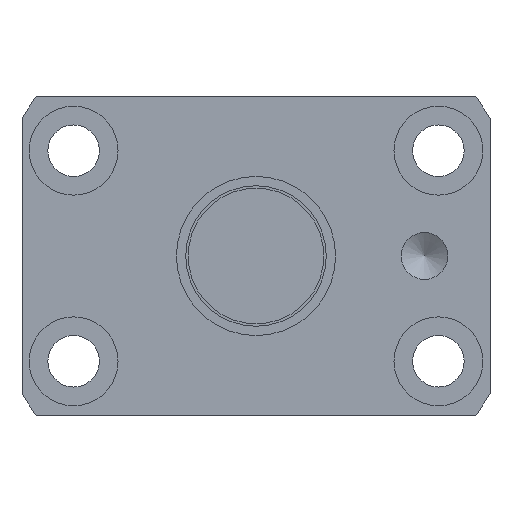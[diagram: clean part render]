
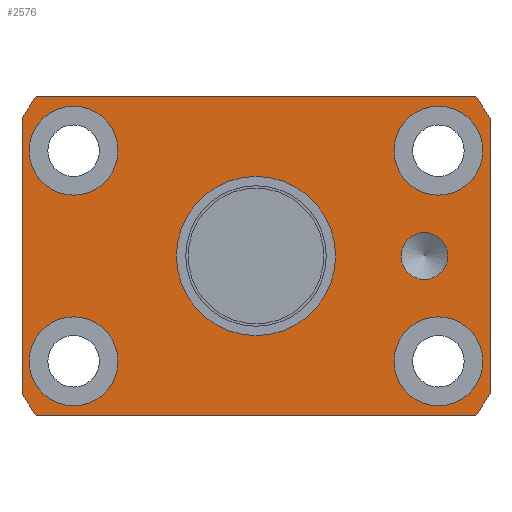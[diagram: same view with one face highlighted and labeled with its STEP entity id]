
A CAD part, left-side view. The second image highlights one B-rep face of the part: STEP entity #2576.
In plain terms, the highlighted planar face has unit normal (-1, 0, 0).
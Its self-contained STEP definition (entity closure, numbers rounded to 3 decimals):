
#53 = EDGE_CURVE ( 'NONE', #3073, #2278, #2733, .T. ) ;
#81 = ORIENTED_EDGE ( 'NONE', *, *, #1550, .T. ) ;
#88 = CIRCLE ( 'NONE', #2144, 29. ) ;
#97 = VECTOR ( 'NONE', #3296, 1000. ) ;
#103 = AXIS2_PLACEMENT_3D ( 'NONE', #683, #1793, #2820 ) ;
#140 = CARTESIAN_POINT ( 'NONE',  ( 0., 0., 0. ) ) ;
#155 = CIRCLE ( 'NONE', #1786, 4.75 ) ;
#184 = EDGE_CURVE ( 'NONE', #679, #1046, #2044, .T. ) ;
#186 = ORIENTED_EDGE ( 'NONE', *, *, #53, .F. ) ;
#212 = VECTOR ( 'NONE', #2349, 1000. ) ;
#217 = VERTEX_POINT ( 'NONE', #2267 ) ;
#252 = EDGE_CURVE ( 'NONE', #2813, #1229, #2455, .T. ) ;
#349 = EDGE_CURVE ( 'NONE', #1229, #674, #88, .T. ) ;
#451 = ORIENTED_EDGE ( 'NONE', *, *, #2129, .T. ) ;
#466 = CARTESIAN_POINT ( 'NONE',  ( 0., -23.495, -17. ) ) ;
#508 = PLANE ( 'NONE',  #1628 ) ;
#583 = VECTOR ( 'NONE', #3209, 1000. ) ;
#632 = CIRCLE ( 'NONE', #1778, 8.5 ) ;
#638 = AXIS2_PLACEMENT_3D ( 'NONE', #1267, #732, #1518 ) ;
#645 = EDGE_CURVE ( 'NONE', #1539, #1539, #632, .T. ) ;
#656 = CARTESIAN_POINT ( 'NONE',  ( 0., -25., -17. ) ) ;
#657 = CARTESIAN_POINT ( 'NONE',  ( 0., 25., -17. ) ) ;
#668 = DIRECTION ( 'NONE',  ( 0., 1., 0. ) ) ;
#674 = VERTEX_POINT ( 'NONE', #1035 ) ;
#679 = VERTEX_POINT ( 'NONE', #1066 ) ;
#683 = CARTESIAN_POINT ( 'NONE',  ( 0., 0., 0. ) ) ;
#692 = EDGE_CURVE ( 'NONE', #674, #679, #2085, .T. ) ;
#719 = FACE_BOUND ( 'NONE', #2199, .T. ) ;
#722 = ORIENTED_EDGE ( 'NONE', *, *, #1375, .T. ) ;
#732 = DIRECTION ( 'NONE',  ( 1., 0., 0. ) ) ;
#735 = FACE_BOUND ( 'NONE', #1938, .T. ) ;
#742 = DIRECTION ( 'NONE',  ( 1., 0., 0. ) ) ;
#744 = CARTESIAN_POINT ( 'NONE',  ( 0., -18., 0. ) ) ;
#753 = FACE_BOUND ( 'NONE', #2253, .T. ) ;
#754 = CIRCLE ( 'NONE', #1780, 2.5 ) ;
#755 = ORIENTED_EDGE ( 'NONE', *, *, #2162, .F. ) ;
#812 = DIRECTION ( 'NONE',  ( 1., 0., 0. ) ) ;
#823 = DIRECTION ( 'NONE',  ( 0., -1., 0. ) ) ;
#838 = CARTESIAN_POINT ( 'NONE',  ( 0., -19.486, 11.25 ) ) ;
#874 = CARTESIAN_POINT ( 'NONE',  ( 0., 25., -14.697 ) ) ;
#998 = FACE_BOUND ( 'NONE', #3045, .T. ) ;
#1035 = CARTESIAN_POINT ( 'NONE',  ( 0., 23.495, 17. ) ) ;
#1046 = VERTEX_POINT ( 'NONE', #1712 ) ;
#1066 = CARTESIAN_POINT ( 'NONE',  ( 0., -23.495, 17. ) ) ;
#1072 = ORIENTED_EDGE ( 'NONE', *, *, #1404, .T. ) ;
#1075 = AXIS2_PLACEMENT_3D ( 'NONE', #1261, #742, #1775 ) ;
#1083 = DIRECTION ( 'NONE',  ( 0., 1., 0. ) ) ;
#1118 = EDGE_CURVE ( 'NONE', #217, #217, #754, .T. ) ;
#1162 = VERTEX_POINT ( 'NONE', #2209 ) ;
#1188 = DIRECTION ( 'NONE',  ( 0., 1., 0. ) ) ;
#1194 = CIRCLE ( 'NONE', #2152, 4.75 ) ;
#1213 = ORIENTED_EDGE ( 'NONE', *, *, #252, .F. ) ;
#1226 = CARTESIAN_POINT ( 'NONE',  ( 0., 23.495, -17. ) ) ;
#1229 = VERTEX_POINT ( 'NONE', #3315 ) ;
#1261 = CARTESIAN_POINT ( 'NONE',  ( 0., 0., 0. ) ) ;
#1267 = CARTESIAN_POINT ( 'NONE',  ( 0., -19.486, -11.25 ) ) ;
#1339 = CARTESIAN_POINT ( 'NONE',  ( 0., 25., 17. ) ) ;
#1375 = EDGE_CURVE ( 'NONE', #1944, #1944, #3017, .T. ) ;
#1390 = CARTESIAN_POINT ( 'NONE',  ( 0., 19.486, 11.25 ) ) ;
#1395 = VERTEX_POINT ( 'NONE', #1447 ) ;
#1404 = EDGE_CURVE ( 'NONE', #1395, #1395, #1194, .T. ) ;
#1447 = CARTESIAN_POINT ( 'NONE',  ( 0., 24.236, 11.25 ) ) ;
#1504 = DIRECTION ( 'NONE',  ( 0., 0., 1. ) ) ;
#1507 = DIRECTION ( 'NONE',  ( 1., 0., 0. ) ) ;
#1518 = DIRECTION ( 'NONE',  ( 0., 1., 0. ) ) ;
#1519 = CARTESIAN_POINT ( 'NONE',  ( 0., 8.5, 0. ) ) ;
#1534 = DIRECTION ( 'NONE',  ( -1., 0., 0. ) ) ;
#1539 = VERTEX_POINT ( 'NONE', #1519 ) ;
#1550 = EDGE_CURVE ( 'NONE', #2176, #2176, #1995, .T. ) ;
#1583 = CARTESIAN_POINT ( 'NONE',  ( 0., 0., 0. ) ) ;
#1611 = DIRECTION ( 'NONE',  ( 0., 1., 0. ) ) ;
#1616 = ORIENTED_EDGE ( 'NONE', *, *, #645, .T. ) ;
#1628 = AXIS2_PLACEMENT_3D ( 'NONE', #2970, #2500, #1504 ) ;
#1637 = DIRECTION ( 'NONE',  ( 1., 0., 0. ) ) ;
#1664 = ORIENTED_EDGE ( 'NONE', *, *, #692, .F. ) ;
#1675 = DIRECTION ( 'NONE',  ( 1., 0., 0. ) ) ;
#1712 = CARTESIAN_POINT ( 'NONE',  ( 0., -25., 14.697 ) ) ;
#1721 = VECTOR ( 'NONE', #823, 1000. ) ;
#1775 = DIRECTION ( 'NONE',  ( 0., 1., 0. ) ) ;
#1778 = AXIS2_PLACEMENT_3D ( 'NONE', #2781, #1507, #2522 ) ;
#1780 = AXIS2_PLACEMENT_3D ( 'NONE', #744, #1534, #2550 ) ;
#1786 = AXIS2_PLACEMENT_3D ( 'NONE', #2206, #1962, #668 ) ;
#1793 = DIRECTION ( 'NONE',  ( 1., 0., 0. ) ) ;
#1803 = FACE_OUTER_BOUND ( 'NONE', #3137, .T. ) ;
#1909 = CARTESIAN_POINT ( 'NONE',  ( 0., -14.736, -11.25 ) ) ;
#1938 = EDGE_LOOP ( 'NONE', ( #2330 ) ) ;
#1944 = VERTEX_POINT ( 'NONE', #1909 ) ;
#1946 = ORIENTED_EDGE ( 'NONE', *, *, #3005, .F. ) ;
#1962 = DIRECTION ( 'NONE',  ( 1., 0., 0. ) ) ;
#1995 = CIRCLE ( 'NONE', #2635, 4.75 ) ;
#2022 = FACE_BOUND ( 'NONE', #2667, .T. ) ;
#2044 = CIRCLE ( 'NONE', #2523, 29. ) ;
#2085 = LINE ( 'NONE', #1339, #1721 ) ;
#2122 = DIRECTION ( 'NONE',  ( 1., 0., 0. ) ) ;
#2129 = EDGE_CURVE ( 'NONE', #1162, #1162, #155, .T. ) ;
#2144 = AXIS2_PLACEMENT_3D ( 'NONE', #140, #1675, #1188 ) ;
#2152 = AXIS2_PLACEMENT_3D ( 'NONE', #1390, #1637, #3186 ) ;
#2162 = EDGE_CURVE ( 'NONE', #2278, #3245, #2972, .T. ) ;
#2176 = VERTEX_POINT ( 'NONE', #2675 ) ;
#2199 = EDGE_LOOP ( 'NONE', ( #722 ) ) ;
#2206 = CARTESIAN_POINT ( 'NONE',  ( 0., 19.486, -11.25 ) ) ;
#2209 = CARTESIAN_POINT ( 'NONE',  ( 0., 24.236, -11.25 ) ) ;
#2253 = EDGE_LOOP ( 'NONE', ( #451 ) ) ;
#2267 = CARTESIAN_POINT ( 'NONE',  ( 0., -18., 2.5 ) ) ;
#2278 = VERTEX_POINT ( 'NONE', #466 ) ;
#2330 = ORIENTED_EDGE ( 'NONE', *, *, #1118, .F. ) ;
#2334 = LINE ( 'NONE', #2896, #212 ) ;
#2349 = DIRECTION ( 'NONE',  ( 0., 0., -1. ) ) ;
#2432 = ORIENTED_EDGE ( 'NONE', *, *, #349, .F. ) ;
#2455 = LINE ( 'NONE', #657, #583 ) ;
#2464 = EDGE_LOOP ( 'NONE', ( #1616 ) ) ;
#2500 = DIRECTION ( 'NONE',  ( -1., 0., 0. ) ) ;
#2522 = DIRECTION ( 'NONE',  ( 0., 1., 0. ) ) ;
#2523 = AXIS2_PLACEMENT_3D ( 'NONE', #1583, #812, #1611 ) ;
#2550 = DIRECTION ( 'NONE',  ( 0., 0., 1. ) ) ;
#2560 = CARTESIAN_POINT ( 'NONE',  ( 0., -25., -14.697 ) ) ;
#2576 = ADVANCED_FACE ( 'NONE', ( #735, #753, #998, #2022, #719, #1803, #2830 ), #508, .T. ) ;
#2606 = ORIENTED_EDGE ( 'NONE', *, *, #3170, .F. ) ;
#2635 = AXIS2_PLACEMENT_3D ( 'NONE', #838, #2122, #1083 ) ;
#2667 = EDGE_LOOP ( 'NONE', ( #1072 ) ) ;
#2675 = CARTESIAN_POINT ( 'NONE',  ( 0., -14.736, 11.25 ) ) ;
#2733 = CIRCLE ( 'NONE', #1075, 29. ) ;
#2755 = CIRCLE ( 'NONE', #103, 29. ) ;
#2781 = CARTESIAN_POINT ( 'NONE',  ( 0., 0., 0. ) ) ;
#2813 = VERTEX_POINT ( 'NONE', #874 ) ;
#2820 = DIRECTION ( 'NONE',  ( 0., 1., 0. ) ) ;
#2830 = FACE_BOUND ( 'NONE', #2464, .T. ) ;
#2896 = CARTESIAN_POINT ( 'NONE',  ( 0., -25., 17. ) ) ;
#2970 = CARTESIAN_POINT ( 'NONE',  ( 0., 12.75, 0. ) ) ;
#2972 = LINE ( 'NONE', #656, #97 ) ;
#3005 = EDGE_CURVE ( 'NONE', #3245, #2813, #2755, .T. ) ;
#3017 = CIRCLE ( 'NONE', #638, 4.75 ) ;
#3045 = EDGE_LOOP ( 'NONE', ( #81 ) ) ;
#3073 = VERTEX_POINT ( 'NONE', #2560 ) ;
#3137 = EDGE_LOOP ( 'NONE', ( #755, #186, #2606, #3192, #1664, #2432, #1213, #1946 ) ) ;
#3170 = EDGE_CURVE ( 'NONE', #1046, #3073, #2334, .T. ) ;
#3186 = DIRECTION ( 'NONE',  ( 0., 1., 0. ) ) ;
#3192 = ORIENTED_EDGE ( 'NONE', *, *, #184, .F. ) ;
#3209 = DIRECTION ( 'NONE',  ( 0., 0., 1. ) ) ;
#3245 = VERTEX_POINT ( 'NONE', #1226 ) ;
#3296 = DIRECTION ( 'NONE',  ( 0., 1., 0. ) ) ;
#3315 = CARTESIAN_POINT ( 'NONE',  ( 0., 25., 14.697 ) ) ;
